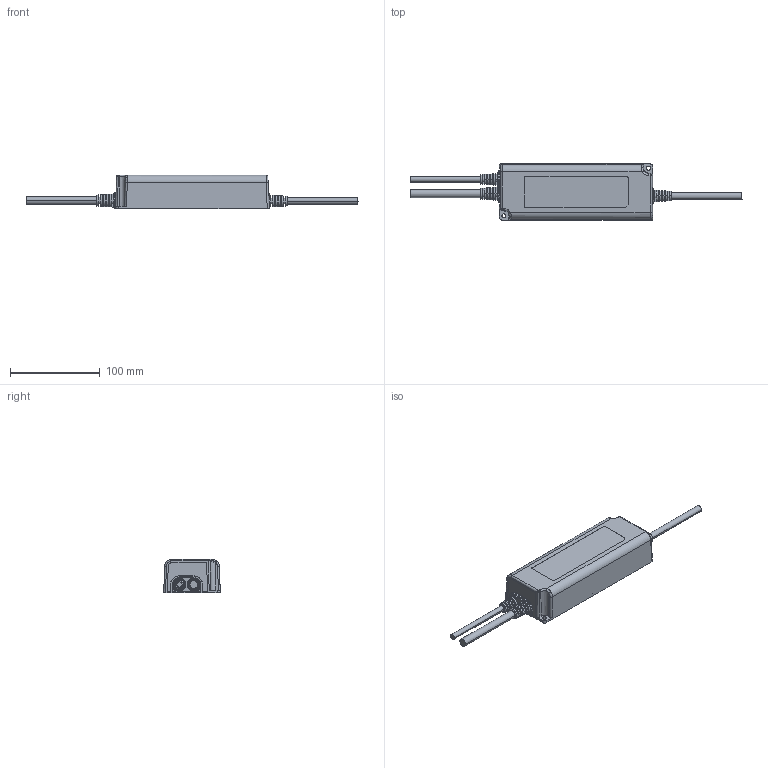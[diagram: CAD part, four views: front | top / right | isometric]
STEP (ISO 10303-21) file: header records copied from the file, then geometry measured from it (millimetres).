
FILE_DESCRIPTION(('Creo Elements/Direct Modeling STEP Export'),'2;1');
FILE_NAME('PWM-90.stp','2015-04-27T15:05:57',(''),(''),'PTC Creo Elements/Direct Modeling STEP processor for AP214 (Solid Model)','PTC Creo Elements/Direct Modeling 19.0 09-May-2014 (C) Parametric Technology GmbH','');
FILE_SCHEMA(('AUTOMOTIVE_DESIGN { 1 0 10303 214 1 1 1 1 }'));
Length unit declared in the file: millimetre
Products named in the file (3): p1; p3; PWM-90
Assembly tree (2 placements, depth 2):
  PWM-90
    p3
    p1
Bounding box: 369.91 x 63.04 x 37.5 mm (x, y, z)
Volume: 60854.3 mm3; surface area: 85632 mm2
Topology: 1 solids, 4 shells, 811 faces, 2257 edges, 1465 vertices
Faces by surface type: plane 548, cylinder 205, cone 29, bspline 15, sphere 8, torus 6
Entity records: 26637 total; most frequent: CARTESIAN_POINT 6391, ORIENTED_EDGE 4525, DIRECTION 3848, EDGE_CURVE 2257, VECTOR 1490, LINE 1490, VERTEX_POINT 1463, AXIS2_PLACEMENT_3D 1179
